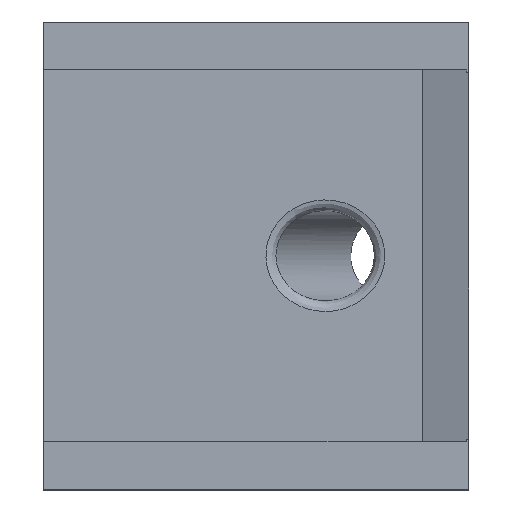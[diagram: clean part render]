
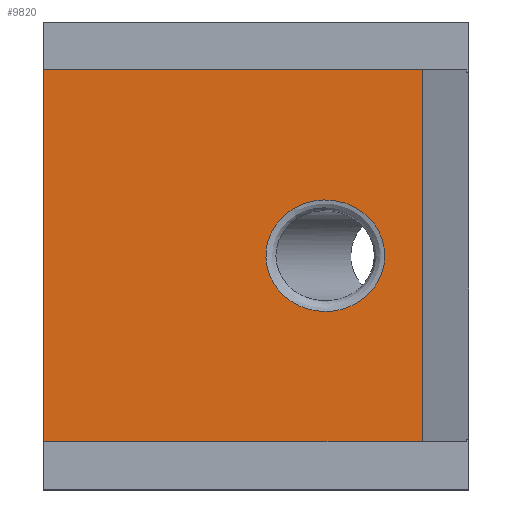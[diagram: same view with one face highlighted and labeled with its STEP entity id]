
A CAD part, top view. The second image highlights one B-rep face of the part: STEP entity #9820.
In plain terms, the highlighted planar face has unit normal (0, 0, 1).
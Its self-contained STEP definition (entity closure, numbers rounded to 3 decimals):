
#9 = DIRECTION ( 'NONE',  ( -1., 0., 0. ) ) ;
#23 = DIRECTION ( 'NONE',  ( 0., -1., 0. ) ) ;
#124 = EDGE_CURVE ( 'NONE', #9956, #9634, #11213, .T. ) ;
#261 = CARTESIAN_POINT ( 'NONE',  ( 32.111, 0., 20. ) ) ;
#888 = CARTESIAN_POINT ( 'NONE',  ( 35.632, 17.5, 20. ) ) ;
#1109 = EDGE_LOOP ( 'NONE', ( #8322, #1573, #4230, #2674 ) ) ;
#1229 = CARTESIAN_POINT ( 'NONE',  ( 20.937, 0., 20. ) ) ;
#1354 = VECTOR ( 'NONE', #9424, 1000. ) ;
#1490 = CARTESIAN_POINT ( 'NONE',  ( 0., 17.5, 20. ) ) ;
#1573 = ORIENTED_EDGE ( 'NONE', *, *, #3219, .F. ) ;
#1952 = DIRECTION ( 'NONE',  ( 0., 0., -1. ) ) ;
#2041 = EDGE_CURVE ( 'NONE', #3222, #3222, #8359, .T. ) ;
#2047 = CARTESIAN_POINT ( 'NONE',  ( 0., 17.5, 20. ) ) ;
#2578 = CARTESIAN_POINT ( 'NONE',  ( 0., -17.5, 20. ) ) ;
#2674 = ORIENTED_EDGE ( 'NONE', *, *, #8838, .T. ) ;
#3010 = CARTESIAN_POINT ( 'NONE',  ( 32.111, -10.5, 20. ) ) ;
#3060 = VERTEX_POINT ( 'NONE', #2047 ) ;
#3066 = CARTESIAN_POINT ( 'NONE',  ( 32.111, 0., 20. ) ) ;
#3095 = VECTOR ( 'NONE', #10082, 1000. ) ;
#3219 = EDGE_CURVE ( 'NONE', #9184, #9634, #5255, .T. ) ;
#3222 = VERTEX_POINT ( 'NONE', #11040 ) ;
#3335 = DIRECTION ( 'NONE',  ( 1., 0., 0. ) ) ;
#3556 = AXIS2_PLACEMENT_3D ( 'NONE', #5237, #1952, #9 ) ;
#3980 = ORIENTED_EDGE ( 'NONE', *, *, #2041, .T. ) ;
#4230 = ORIENTED_EDGE ( 'NONE', *, *, #7866, .F. ) ;
#4788 = LINE ( 'NONE', #6515, #3095 ) ;
#4818 = VECTOR ( 'NONE', #23, 1000. ) ;
#5237 = CARTESIAN_POINT ( 'NONE',  ( 0., 17.5, 20. ) ) ;
#5255 = LINE ( 'NONE', #888, #4818 ) ;
#6354 = CARTESIAN_POINT ( 'NONE',  ( 32.111, 10.5, 20. ) ) ;
#6515 = CARTESIAN_POINT ( 'NONE',  ( 0., 17.5, 20. ) ) ;
#6726 = CARTESIAN_POINT ( 'NONE',  ( 0., -17.5, 20. ) ) ;
#6811 = VECTOR ( 'NONE', #3335, 1000. ) ;
#7426 = CARTESIAN_POINT ( 'NONE',  ( 35.632, -17.5, 20. ) ) ;
#7694 = EDGE_LOOP ( 'NONE', ( #3980 ) ) ;
#7866 = EDGE_CURVE ( 'NONE', #3060, #9184, #4788, .T. ) ;
#7882 = FACE_BOUND ( 'NONE', #7694, .T. ) ;
#8318 = CARTESIAN_POINT ( 'NONE',  ( 35.632, 17.5, 20. ) ) ;
#8322 = ORIENTED_EDGE ( 'NONE', *, *, #124, .T. ) ;
#8359 =( BOUNDED_CURVE ( )  B_SPLINE_CURVE ( 3, ( #261, #3010, #10892, #1229, #10835, #6354, #3066 ),
 .UNSPECIFIED., .T., .T. ) 
 B_SPLINE_CURVE_WITH_KNOTS ( ( 4, 3, 4 ),
 ( 0., 3.142, 6.283 ),
 .UNSPECIFIED. ) 
 CURVE ( )  GEOMETRIC_REPRESENTATION_ITEM ( )  RATIONAL_B_SPLINE_CURVE ( ( 1., 0.333, 0.333, 1., 0.333, 0.333, 1. ) ) 
 REPRESENTATION_ITEM ( '' )  );
#8838 = EDGE_CURVE ( 'NONE', #3060, #9956, #11153, .T. ) ;
#9184 = VERTEX_POINT ( 'NONE', #8318 ) ;
#9424 = DIRECTION ( 'NONE',  ( 0., -1., 0. ) ) ;
#9634 = VERTEX_POINT ( 'NONE', #7426 ) ;
#9820 = ADVANCED_FACE ( 'NONE', ( #7882, #9836 ), #10533, .F. ) ;
#9836 = FACE_OUTER_BOUND ( 'NONE', #1109, .T. ) ;
#9956 = VERTEX_POINT ( 'NONE', #2578 ) ;
#10082 = DIRECTION ( 'NONE',  ( 1., 0., 0. ) ) ;
#10533 = PLANE ( 'NONE',  #3556 ) ;
#10835 = CARTESIAN_POINT ( 'NONE',  ( 20.937, 10.5, 20. ) ) ;
#10892 = CARTESIAN_POINT ( 'NONE',  ( 20.937, -10.5, 20. ) ) ;
#11040 = CARTESIAN_POINT ( 'NONE',  ( 32.111, 0., 20. ) ) ;
#11153 = LINE ( 'NONE', #1490, #1354 ) ;
#11213 = LINE ( 'NONE', #6726, #6811 ) ;
